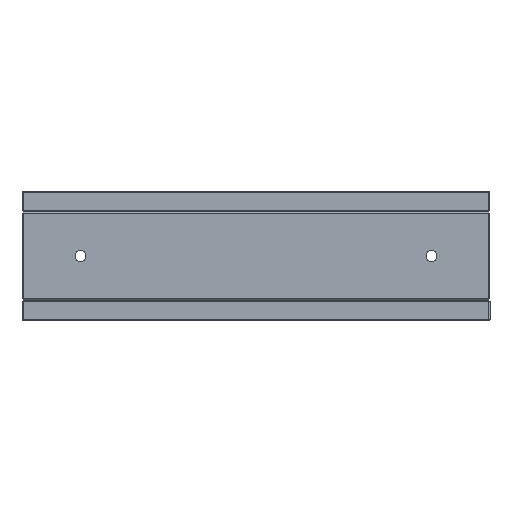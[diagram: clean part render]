
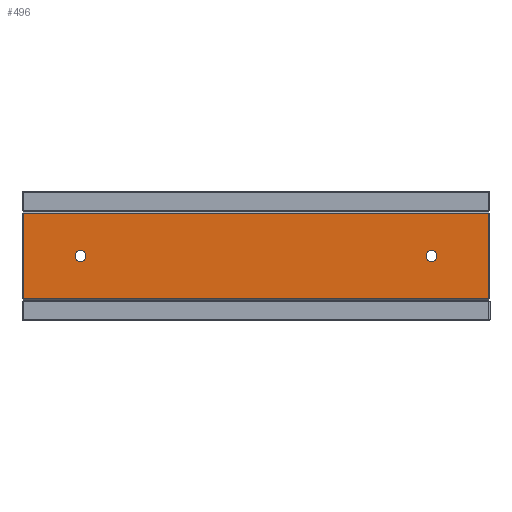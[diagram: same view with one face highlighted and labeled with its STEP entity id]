
A CAD part, front view. The second image highlights one B-rep face of the part: STEP entity #496.
In plain terms, the highlighted planar face has unit normal (0, -1, 0).
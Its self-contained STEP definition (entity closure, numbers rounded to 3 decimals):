
#5 = VECTOR ( 'NONE', #1100, 1000. ) ;
#208 = DIRECTION ( 'NONE',  ( 0., 0., 1. ) ) ;
#461 = CARTESIAN_POINT ( 'NONE',  ( -217.138, 242.151, 531.796 ) ) ;
#463 = LINE ( 'NONE', #11211, #5 ) ;
#496 = ADVANCED_FACE ( 'NONE', ( #8674, #17944, #9623 ), #14740, .F. ) ;
#735 = EDGE_CURVE ( 'NONE', #14374, #17897, #14002, .T. ) ;
#1021 = AXIS2_PLACEMENT_3D ( 'NONE', #18081, #3036, #208 ) ;
#1100 = DIRECTION ( 'NONE',  ( 1., 0., 0. ) ) ;
#1165 = DIRECTION ( 'NONE',  ( 0., 0., -1. ) ) ;
#1356 = EDGE_CURVE ( 'NONE', #17897, #11563, #3402, .T. ) ;
#1387 = DIRECTION ( 'NONE',  ( 0., 0., -1. ) ) ;
#1674 = AXIS2_PLACEMENT_3D ( 'NONE', #9948, #11520, #2399 ) ;
#2078 = EDGE_CURVE ( 'NONE', #11337, #14556, #15905, .T. ) ;
#2399 = DIRECTION ( 'NONE',  ( 0., 0., -1. ) ) ;
#2413 = ORIENTED_EDGE ( 'NONE', *, *, #735, .T. ) ;
#3036 = DIRECTION ( 'NONE',  ( 0., 1., 0. ) ) ;
#3084 = EDGE_LOOP ( 'NONE', ( #9779, #16459 ) ) ;
#3402 = LINE ( 'NONE', #8255, #14119 ) ;
#3630 = AXIS2_PLACEMENT_3D ( 'NONE', #5596, #8460, #9969 ) ;
#3632 = ORIENTED_EDGE ( 'NONE', *, *, #10062, .T. ) ;
#3699 = DIRECTION ( 'NONE',  ( 0., -1., 0. ) ) ;
#4585 = DIRECTION ( 'NONE',  ( 0., 0., 1. ) ) ;
#4847 = CARTESIAN_POINT ( 'NONE',  ( -239.138, 242.151, 513.196 ) ) ;
#5073 = VERTEX_POINT ( 'NONE', #461 ) ;
#5114 = CIRCLE ( 'NONE', #14976, 2.1 ) ;
#5270 = CARTESIAN_POINT ( 'NONE',  ( -60.138, 242.151, 513.196 ) ) ;
#5596 = CARTESIAN_POINT ( 'NONE',  ( -217.138, 242.151, 529.696 ) ) ;
#5663 = CIRCLE ( 'NONE', #1674, 2.1 ) ;
#5763 = LINE ( 'NONE', #17710, #12753 ) ;
#7026 = CARTESIAN_POINT ( 'NONE',  ( -82.138, 242.151, 529.696 ) ) ;
#7428 = CARTESIAN_POINT ( 'NONE',  ( -82.138, 242.151, 527.596 ) ) ;
#7908 = EDGE_LOOP ( 'NONE', ( #8540, #10455, #3632, #2413 ) ) ;
#8255 = CARTESIAN_POINT ( 'NONE',  ( -239.638, 242.151, 546.196 ) ) ;
#8460 = DIRECTION ( 'NONE',  ( 0., -1., 0. ) ) ;
#8540 = ORIENTED_EDGE ( 'NONE', *, *, #1356, .T. ) ;
#8581 = EDGE_CURVE ( 'NONE', #10274, #5073, #5663, .T. ) ;
#8674 = FACE_OUTER_BOUND ( 'NONE', #7908, .T. ) ;
#8989 = VERTEX_POINT ( 'NONE', #4847 ) ;
#9623 = FACE_BOUND ( 'NONE', #3084, .T. ) ;
#9779 = ORIENTED_EDGE ( 'NONE', *, *, #8581, .F. ) ;
#9886 = DIRECTION ( 'NONE',  ( -1., 0., 0. ) ) ;
#9948 = CARTESIAN_POINT ( 'NONE',  ( -217.138, 242.151, 529.696 ) ) ;
#9969 = DIRECTION ( 'NONE',  ( 0., 0., -1. ) ) ;
#10062 = EDGE_CURVE ( 'NONE', #8989, #14374, #463, .T. ) ;
#10197 = EDGE_CURVE ( 'NONE', #11563, #8989, #5763, .T. ) ;
#10274 = VERTEX_POINT ( 'NONE', #19079 ) ;
#10349 = DIRECTION ( 'NONE',  ( 0., 0., -1. ) ) ;
#10455 = ORIENTED_EDGE ( 'NONE', *, *, #10197, .T. ) ;
#10878 = ORIENTED_EDGE ( 'NONE', *, *, #2078, .F. ) ;
#11211 = CARTESIAN_POINT ( 'NONE',  ( -59.638, 242.151, 513.196 ) ) ;
#11337 = VERTEX_POINT ( 'NONE', #7428 ) ;
#11520 = DIRECTION ( 'NONE',  ( 0., -1., 0. ) ) ;
#11563 = VERTEX_POINT ( 'NONE', #18908 ) ;
#12075 = CARTESIAN_POINT ( 'NONE',  ( -60.138, 242.151, 546.696 ) ) ;
#12282 = EDGE_CURVE ( 'NONE', #14556, #11337, #5114, .T. ) ;
#12753 = VECTOR ( 'NONE', #10349, 1000. ) ;
#13301 = DIRECTION ( 'NONE',  ( 0., -1., 0. ) ) ;
#14002 = LINE ( 'NONE', #12075, #17443 ) ;
#14119 = VECTOR ( 'NONE', #9886, 1000. ) ;
#14146 = ORIENTED_EDGE ( 'NONE', *, *, #12282, .F. ) ;
#14374 = VERTEX_POINT ( 'NONE', #5270 ) ;
#14380 = CARTESIAN_POINT ( 'NONE',  ( -82.138, 242.151, 531.796 ) ) ;
#14420 = EDGE_CURVE ( 'NONE', #5073, #10274, #18010, .T. ) ;
#14461 = EDGE_LOOP ( 'NONE', ( #10878, #14146 ) ) ;
#14556 = VERTEX_POINT ( 'NONE', #14380 ) ;
#14740 = PLANE ( 'NONE',  #1021 ) ;
#14976 = AXIS2_PLACEMENT_3D ( 'NONE', #7026, #3699, #1165 ) ;
#15905 = CIRCLE ( 'NONE', #17392, 2.1 ) ;
#16459 = ORIENTED_EDGE ( 'NONE', *, *, #14420, .F. ) ;
#17392 = AXIS2_PLACEMENT_3D ( 'NONE', #17666, #13301, #1387 ) ;
#17443 = VECTOR ( 'NONE', #4585, 1000. ) ;
#17666 = CARTESIAN_POINT ( 'NONE',  ( -82.138, 242.151, 529.696 ) ) ;
#17710 = CARTESIAN_POINT ( 'NONE',  ( -239.138, 242.151, 546.696 ) ) ;
#17744 = CARTESIAN_POINT ( 'NONE',  ( -60.138, 242.151, 546.196 ) ) ;
#17897 = VERTEX_POINT ( 'NONE', #17744 ) ;
#17944 = FACE_BOUND ( 'NONE', #14461, .T. ) ;
#18010 = CIRCLE ( 'NONE', #3630, 2.1 ) ;
#18081 = CARTESIAN_POINT ( 'NONE',  ( -239.638, 242.151, 546.696 ) ) ;
#18908 = CARTESIAN_POINT ( 'NONE',  ( -239.138, 242.151, 546.196 ) ) ;
#19079 = CARTESIAN_POINT ( 'NONE',  ( -217.138, 242.151, 527.596 ) ) ;
